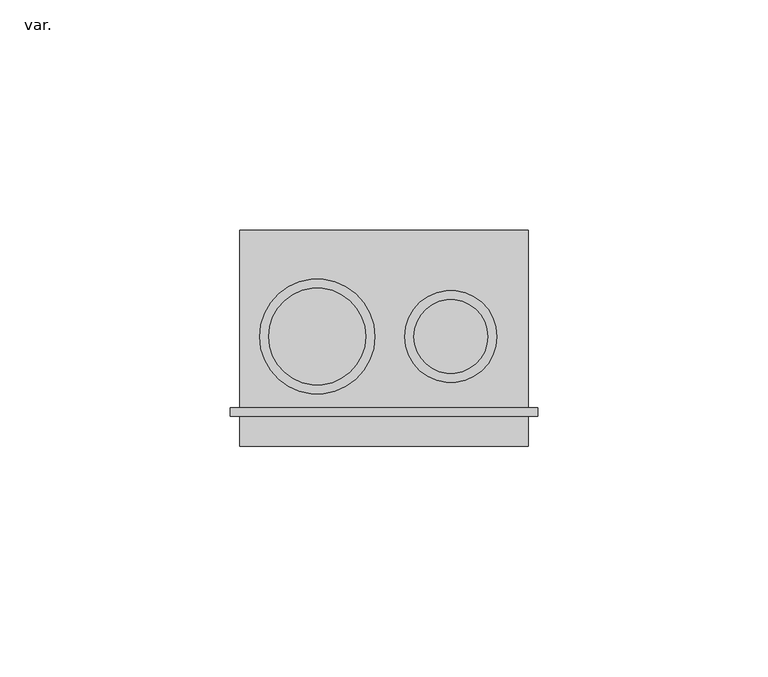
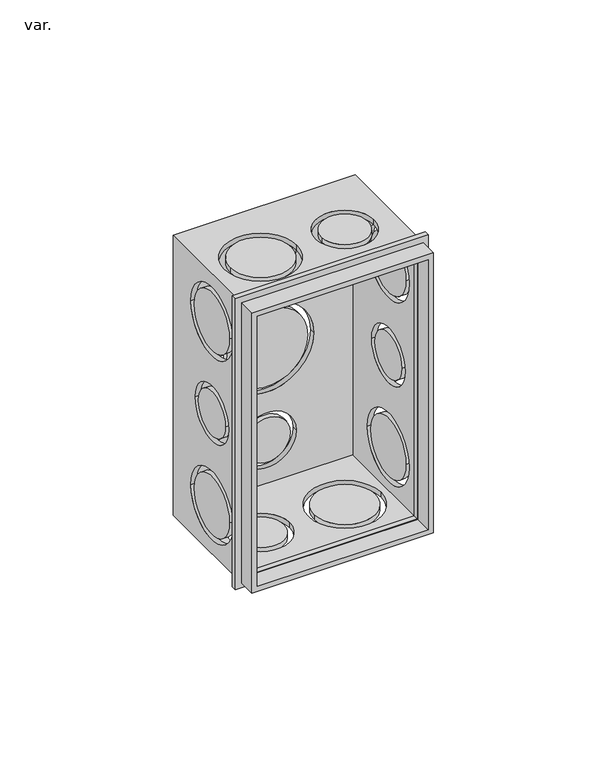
"""IFC4 building model written with IfcOpenShell, lengths in millimetres: pipe fitting geometry, AmancoWavin_ConexõesdoConduite_LinhaEletricaCorrugadoCaixa4x2 : var.."""

from ifc_helpers import new_model, si_unit, frame, origin, place, context, project, spatial, polyline, circle_curve, outline, extrude, source, transform, mapped, element, save
from ifc_brep_helpers import plane_surface, cylinder_surface, revolved_surface, advanced_brep


def var_f98750ab(model_context):
    return source(origin(), model_context, "Body", "SolidModel", [
        extrude(outline(polyline([(53.0, 33.3), (53.0, -33.3), (-53.0, -33.3), (-53.0, 33.3), (53.0, 33.3)]), holes=[polyline([(49.2, 29.5), (-49.2, 29.5), (-49.2, -29.5), (49.2, -29.5), (49.2, 29.5)])]), frame((0.0, 6.5, 0.0), z_axis=(0.0, 1.0, 0.0), x_axis=(0.0, 0.0, 1.0)), (0.0, 0.0, 1.0), 1.8),
        advanced_brep(
        [(31.3, 46.8, 51.0), (31.3, 46.8, -51.0), (-31.3, 46.8, -51.0), (-31.3, 46.8, 51.0), (-16.0, 46.8, 0.0), (16.0, 46.8, 0.0), (-10.0, 46.8, 33.5), (10.0, 46.8, 33.5), (-10.0, 46.8, -33.5), (10.0, 46.8, -33.5), (31.3, 0.0, 51.0), (-31.3, 0.0, 51.0), (-31.3, 0.0, -51.0), (31.3, 0.0, -51.0), (29.5, 0.0, 49.2), (29.5, 0.0, -49.2), (-29.5, 0.0, -49.2), (-29.5, 0.0, 49.2), (31.3, 33.8, 0.0), (31.3, 13.8, 0.0), (31.3, 36.3, 33.5), (31.3, 11.3, 33.5), (31.3, 36.3, -33.5), (31.3, 11.3, -33.5), (2.0, 23.8, -51.0), (27.0, 23.8, -51.0), (-24.5, 23.8, -51.0), (-4.5, 23.8, -51.0), (-31.3, 13.8, 0.0), (-31.3, 33.8, 0.0), (-31.3, 11.3, 33.5), (-31.3, 36.3, 33.5), (-31.3, 11.3, -33.5), (-31.3, 36.3, -33.5), (-2.0, 23.8, 51.0), (-27.0, 23.8, 51.0), (24.5, 23.8, 51.0), (4.5, 23.8, 51.0), (29.5, 45.0, 49.2), (-29.5, 45.0, 49.2), (-29.5, 45.0, -49.2), (29.5, 45.0, -49.2), (16.0, 45.0, 0.0), (-16.0, 45.0, 0.0), (10.0, 45.0, 33.5), (-10.0, 45.0, 33.5), (10.0, 45.0, -33.5), (-10.0, 45.0, -33.5), (29.5, 13.8, 0.0), (29.5, 33.8, 0.0), (29.5, 11.3, 33.5), (29.5, 36.3, 33.5), (29.5, 11.3, -33.5), (29.5, 36.3, -33.5), (27.0, 23.8, -49.2), (2.0, 23.8, -49.2), (-4.5, 23.8, -49.2), (-24.5, 23.8, -49.2), (-29.5, 33.8, 0.0), (-29.5, 13.8, 0.0), (-29.5, 36.3, 33.5), (-29.5, 11.3, 33.5), (-29.5, 36.3, -33.5), (-29.5, 11.3, -33.5), (-27.0, 23.8, 49.2), (-2.0, 23.8, 49.2), (4.5, 23.8, 49.2), (24.5, 23.8, 49.2)],
        [
            (0, 1),
            (1, 2),
            (2, 3),
            (3, 0),
            (4, 5, circle_curve(frame((0.0, 46.8, 0.0), z_axis=(0.0, -1.0, 0.0), x_axis=(-1.0, 0.0, 0.0)), 16.0)),
            (5, 4, circle_curve(frame((0.0, 46.8, 0.0), z_axis=(0.0, -1.0, 0.0), x_axis=(-1.0, 0.0, 0.0)), 16.0)),
            (6, 7, circle_curve(frame((0.0, 46.8, 33.5), z_axis=(0.0, -1.0, 0.0), x_axis=(-1.0, 0.0, 0.0)), 10.0)),
            (7, 6, circle_curve(frame((0.0, 46.8, 33.5), z_axis=(0.0, -1.0, 0.0), x_axis=(-1.0, 0.0, 0.0)), 10.0)),
            (8, 9, circle_curve(frame((0.0, 46.8, -33.5), z_axis=(0.0, -1.0, 0.0), x_axis=(-1.0, 0.0, 0.0)), 10.0)),
            (9, 8, circle_curve(frame((0.0, 46.8, -33.5), z_axis=(0.0, -1.0, 0.0), x_axis=(-1.0, 0.0, 0.0)), 10.0)),
            (10, 11),
            (11, 12),
            (12, 13),
            (13, 10),
            (14, 15),
            (15, 16),
            (16, 17),
            (17, 14),
            (0, 10),
            (13, 1),
            (18, 19, circle_curve(frame((31.3, 23.8, 0.0), z_axis=(-1.0, 0.0, 0.0), x_axis=(0.0, -1.0, 0.0)), 10.0)),
            (19, 18, circle_curve(frame((31.3, 23.8, 0.0), z_axis=(-1.0, 0.0, 0.0), x_axis=(0.0, -1.0, 0.0)), 10.0)),
            (20, 21, circle_curve(frame((31.3, 23.8, 33.5), z_axis=(-1.0, 0.0, 0.0), x_axis=(0.0, -1.0, 0.0)), 12.5)),
            (21, 20, circle_curve(frame((31.3, 23.8, 33.5), z_axis=(-1.0, 0.0, 0.0), x_axis=(0.0, -1.0, 0.0)), 12.5)),
            (22, 23, circle_curve(frame((31.3, 23.8, -33.5), z_axis=(-1.0, 0.0, 0.0), x_axis=(0.0, -1.0, 0.0)), 12.5)),
            (23, 22, circle_curve(frame((31.3, 23.8, -33.5), z_axis=(-1.0, 0.0, 0.0), x_axis=(0.0, -1.0, 0.0)), 12.5)),
            (12, 2),
            (24, 25, circle_curve(frame((14.5, 23.8, -51.0), z_axis=(0.0, 0.0, 1.0), x_axis=(1.0, 0.0, 0.0)), 12.5)),
            (25, 24, circle_curve(frame((14.5, 23.8, -51.0), z_axis=(0.0, 0.0, 1.0), x_axis=(1.0, 0.0, 0.0)), 12.5)),
            (26, 27, circle_curve(frame((-14.5, 23.8, -51.0), z_axis=(0.0, 0.0, 1.0), x_axis=(1.0, 0.0, 0.0)), 10.0)),
            (27, 26, circle_curve(frame((-14.5, 23.8, -51.0), z_axis=(0.0, 0.0, 1.0), x_axis=(1.0, 0.0, 0.0)), 10.0)),
            (11, 3),
            (28, 29, circle_curve(frame((-31.3, 23.8, 0.0), z_axis=(1.0, 0.0, 0.0), x_axis=(0.0, -1.0, 0.0)), 10.0)),
            (29, 28, circle_curve(frame((-31.3, 23.8, 0.0), z_axis=(1.0, 0.0, 0.0), x_axis=(0.0, -1.0, 0.0)), 10.0)),
            (30, 31, circle_curve(frame((-31.3, 23.8, 33.5), z_axis=(1.0, 0.0, 0.0), x_axis=(0.0, -1.0, 0.0)), 12.5)),
            (31, 30, circle_curve(frame((-31.3, 23.8, 33.5), z_axis=(1.0, 0.0, 0.0), x_axis=(0.0, -1.0, 0.0)), 12.5)),
            (32, 33, circle_curve(frame((-31.3, 23.8, -33.5), z_axis=(1.0, 0.0, 0.0), x_axis=(0.0, -1.0, 0.0)), 12.5)),
            (33, 32, circle_curve(frame((-31.3, 23.8, -33.5), z_axis=(1.0, 0.0, 0.0), x_axis=(0.0, -1.0, 0.0)), 12.5)),
            (34, 35, circle_curve(frame((-14.5, 23.8, 51.0), z_axis=(0.0, 0.0, -1.0), x_axis=(1.0, 0.0, 0.0)), 12.5)),
            (35, 34, circle_curve(frame((-14.5, 23.8, 51.0), z_axis=(0.0, 0.0, -1.0), x_axis=(1.0, 0.0, 0.0)), 12.5)),
            (36, 37, circle_curve(frame((14.5, 23.8, 51.0), z_axis=(0.0, 0.0, -1.0), x_axis=(1.0, 0.0, 0.0)), 10.0)),
            (37, 36, circle_curve(frame((14.5, 23.8, 51.0), z_axis=(0.0, 0.0, -1.0), x_axis=(1.0, 0.0, 0.0)), 10.0)),
            (38, 39),
            (39, 40),
            (40, 41),
            (41, 38),
            (42, 43, circle_curve(frame((0.0, 45.0, 0.0), z_axis=(0.0, 1.0, 0.0), x_axis=(-1.0, 0.0, 0.0)), 16.0)),
            (43, 42, circle_curve(frame((0.0, 45.0, 0.0), z_axis=(0.0, 1.0, 0.0), x_axis=(-1.0, 0.0, 0.0)), 16.0)),
            (44, 45, circle_curve(frame((0.0, 45.0, 33.5), z_axis=(0.0, 1.0, 0.0), x_axis=(-1.0, 0.0, 0.0)), 10.0)),
            (45, 44, circle_curve(frame((0.0, 45.0, 33.5), z_axis=(0.0, 1.0, 0.0), x_axis=(-1.0, 0.0, 0.0)), 10.0)),
            (46, 47, circle_curve(frame((0.0, 45.0, -33.5), z_axis=(0.0, 1.0, 0.0), x_axis=(-1.0, 0.0, 0.0)), 10.0)),
            (47, 46, circle_curve(frame((0.0, 45.0, -33.5), z_axis=(0.0, 1.0, 0.0), x_axis=(-1.0, 0.0, 0.0)), 10.0)),
            (41, 15),
            (14, 38),
            (48, 49, circle_curve(frame((29.5, 23.8, 0.0), z_axis=(1.0, 0.0, 0.0), x_axis=(0.0, -1.0, 0.0)), 10.0)),
            (49, 48, circle_curve(frame((29.5, 23.8, 0.0), z_axis=(1.0, 0.0, 0.0), x_axis=(0.0, -1.0, 0.0)), 10.0)),
            (50, 51, circle_curve(frame((29.5, 23.8, 33.5), z_axis=(1.0, 0.0, 0.0), x_axis=(0.0, -1.0, 0.0)), 12.5)),
            (51, 50, circle_curve(frame((29.5, 23.8, 33.5), z_axis=(1.0, 0.0, 0.0), x_axis=(0.0, -1.0, 0.0)), 12.5)),
            (52, 53, circle_curve(frame((29.5, 23.8, -33.5), z_axis=(1.0, 0.0, 0.0), x_axis=(0.0, -1.0, 0.0)), 12.5)),
            (53, 52, circle_curve(frame((29.5, 23.8, -33.5), z_axis=(1.0, 0.0, 0.0), x_axis=(0.0, -1.0, 0.0)), 12.5)),
            (40, 16),
            (54, 55, circle_curve(frame((14.5, 23.8, -49.2), z_axis=(0.0, 0.0, -1.0), x_axis=(1.0, 0.0, 0.0)), 12.5)),
            (55, 54, circle_curve(frame((14.5, 23.8, -49.2), z_axis=(0.0, 0.0, -1.0), x_axis=(1.0, 0.0, 0.0)), 12.5)),
            (56, 57, circle_curve(frame((-14.5, 23.8, -49.2), z_axis=(0.0, 0.0, -1.0), x_axis=(1.0, 0.0, 0.0)), 10.0)),
            (57, 56, circle_curve(frame((-14.5, 23.8, -49.2), z_axis=(0.0, 0.0, -1.0), x_axis=(1.0, 0.0, 0.0)), 10.0)),
            (39, 17),
            (58, 59, circle_curve(frame((-29.5, 23.8, 0.0), z_axis=(-1.0, 0.0, 0.0), x_axis=(0.0, -1.0, 0.0)), 10.0)),
            (59, 58, circle_curve(frame((-29.5, 23.8, 0.0), z_axis=(-1.0, 0.0, 0.0), x_axis=(0.0, -1.0, 0.0)), 10.0)),
            (60, 61, circle_curve(frame((-29.5, 23.8, 33.5), z_axis=(-1.0, 0.0, 0.0), x_axis=(0.0, -1.0, 0.0)), 12.5)),
            (61, 60, circle_curve(frame((-29.5, 23.8, 33.5), z_axis=(-1.0, 0.0, 0.0), x_axis=(0.0, -1.0, 0.0)), 12.5)),
            (62, 63, circle_curve(frame((-29.5, 23.8, -33.5), z_axis=(-1.0, 0.0, 0.0), x_axis=(0.0, -1.0, 0.0)), 12.5)),
            (63, 62, circle_curve(frame((-29.5, 23.8, -33.5), z_axis=(-1.0, 0.0, 0.0), x_axis=(0.0, -1.0, 0.0)), 12.5)),
            (64, 65, circle_curve(frame((-14.5, 23.8, 49.2), z_axis=(0.0, 0.0, 1.0), x_axis=(1.0, 0.0, 0.0)), 12.5)),
            (65, 64, circle_curve(frame((-14.5, 23.8, 49.2), z_axis=(0.0, 0.0, 1.0), x_axis=(1.0, 0.0, 0.0)), 12.5)),
            (66, 67, circle_curve(frame((14.5, 23.8, 49.2), z_axis=(0.0, 0.0, 1.0), x_axis=(1.0, 0.0, 0.0)), 10.0)),
            (67, 66, circle_curve(frame((14.5, 23.8, 49.2), z_axis=(0.0, 0.0, 1.0), x_axis=(1.0, 0.0, 0.0)), 10.0)),
            (4, 43),
            (42, 5),
            (6, 45),
            (44, 7),
            (8, 47),
            (46, 9),
            (34, 65),
            (64, 35),
            (36, 67),
            (66, 37),
            (54, 25),
            (24, 55),
            (56, 27),
            (26, 57),
            (18, 49),
            (48, 19),
            (58, 29),
            (28, 59),
            (20, 51),
            (50, 21),
            (60, 31),
            (30, 61),
            (22, 53),
            (52, 23),
            (62, 33),
            (32, 63),
        ],
        [
            plane_surface(frame((31.3, 46.8, 51.0), z_axis=(0.0, 1.0, 0.0), x_axis=(0.0, 0.0, -1.0))),
            plane_surface(frame((31.3, 0.0, 51.0), z_axis=(0.0, -1.0, 0.0), x_axis=(0.0, 0.0, 1.0))),
            plane_surface(frame((31.3, 46.8, 51.0), z_axis=(1.0, 0.0, 0.0), x_axis=(0.0, -1.0, 0.0))),
            plane_surface(frame((31.3, 46.8, -51.0), z_axis=(0.0, 0.0, -1.0), x_axis=(0.0, -1.0, 0.0))),
            plane_surface(frame((-31.3, 46.8, -51.0), z_axis=(-1.0, 0.0, 0.0), x_axis=(0.0, -1.0, 0.0))),
            plane_surface(frame((-31.3, 46.8, 51.0), z_axis=(0.0, 0.0, 1.0), x_axis=(0.0, -1.0, 0.0))),
            plane_surface(frame((29.5, 45.0, 49.2), z_axis=(0.0, -1.0, 0.0), x_axis=(0.0, 0.0, -1.0))),
            plane_surface(frame((29.5, 45.0, 49.2), z_axis=(-1.0, 0.0, 0.0), x_axis=(0.0, -1.0, 0.0))),
            plane_surface(frame((29.5, 45.0, -49.2), z_axis=(0.0, 0.0, 1.0), x_axis=(0.0, -1.0, 0.0))),
            plane_surface(frame((-29.5, 45.0, -49.2), z_axis=(1.0, 0.0, 0.0), x_axis=(0.0, -1.0, 0.0))),
            plane_surface(frame((-29.5, 45.0, 49.2), z_axis=(0.0, 0.0, -1.0), x_axis=(0.0, -1.0, 0.0))),
            revolved_surface(polyline([(-16.0, 46.8, 0.0), (-16.0, 45.0, 0.0)]), (0.0, 45.0, 0.0), (0.0, 1.0, 0.0)),
            revolved_surface(polyline([(-10.0, 46.8, 33.5), (-10.0, 45.0, 33.5)]), (0.0, 0.0, 33.5), (0.0, 1.0, 0.0)),
            revolved_surface(polyline([(-10.0, 46.8, -33.5), (-10.0, 45.0, -33.5)]), (0.0, 0.0, -33.5), (0.0, 1.0, 0.0)),
            revolved_surface(polyline([(-2.0, 23.8, 51.0), (-2.0, 23.8, 49.2)]), (-14.5, 23.8, 49.2), (0.0, 0.0, 1.0)),
            revolved_surface(polyline([(24.5, 23.8, 51.0), (24.5, 23.8, 49.2)]), (14.5, 23.8, 0.0), (0.0, 0.0, 1.0)),
            revolved_surface(polyline([(27.0, 23.8, -49.2), (27.0, 23.8, -51.0)]), (14.5, 23.8, 0.0), (0.0, 0.0, 1.0)),
            revolved_surface(polyline([(-4.5, 23.8, -49.2), (-4.5, 23.8, -51.0)]), (-14.5, 23.8, 0.0), (0.0, 0.0, 1.0)),
            revolved_surface(polyline([(29.5, 13.8, 0.0), (31.3, 13.8, 0.0)]), (31.3, 23.8, 0.0), (-1.0, 0.0, 0.0)),
            revolved_surface(polyline([(-31.3, 13.8, 0.0), (-29.499999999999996, 13.8, 0.0)]), (31.3, 23.8, 0.0), (-1.0, 0.0, 0.0)),
            revolved_surface(polyline([(29.5, 11.3, 33.5), (31.3, 11.3, 33.5)]), (0.0, 23.8, 33.5), (-1.0, 0.0, 0.0)),
            revolved_surface(polyline([(-31.3, 11.3, 33.5), (-29.5, 11.3, 33.5)]), (0.0, 23.8, 33.5), (-1.0, 0.0, 0.0)),
            revolved_surface(polyline([(29.5, 11.3, -33.5), (31.3, 11.3, -33.5)]), (0.0, 23.8, -33.5), (-1.0, 0.0, 0.0)),
            revolved_surface(polyline([(-31.3, 11.3, -33.5), (-29.5, 11.3, -33.5)]), (0.0, 23.8, -33.5), (-1.0, 0.0, 0.0)),
        ],
        [
            (0, [[1, 2, 3, 4], [5, 6], [7, 8], [9, 10]]),
            (1, [[11, 12, 13, 14], [15, 16, 17, 18]]),
            (2, [[-1, 19, -14, 20], [21, 22], [23, 24], [25, 26]]),
            (3, [[-2, -20, -13, 27], [28, 29], [30, 31]]),
            (4, [[-3, -27, -12, 32], [33, 34], [35, 36], [37, 38]]),
            (5, [[-4, -32, -11, -19], [39, 40], [41, 42]]),
            (6, [[43, 44, 45, 46], [47, 48], [49, 50], [51, 52]]),
            (7, [[-46, 53, -15, 54], [55, 56], [57, 58], [59, 60]]),
            (8, [[-45, 61, -16, -53], [62, 63], [64, 65]]),
            (9, [[-44, 66, -17, -61], [67, 68], [69, 70], [71, 72]]),
            (10, [[-43, -54, -18, -66], [73, 74], [75, 76]]),
            (11, [[77, -47, 78, -5]]),
            (11, [[-77, -6, -78, -48]]),
            (12, [[79, -49, 80, -7]]),
            (12, [[-79, -8, -80, -50]]),
            (13, [[81, -51, 82, -9]]),
            (13, [[-81, -10, -82, -52]]),
            (14, [[83, -73, 84, -39]]),
            (14, [[-83, -40, -84, -74]]),
            (15, [[85, -75, 86, -41]]),
            (15, [[-85, -42, -86, -76]]),
            (16, [[87, -28, 88, -62]]),
            (16, [[-87, -63, -88, -29]]),
            (17, [[89, -30, 90, -64]]),
            (17, [[-89, -65, -90, -31]]),
            (18, [[91, -55, 92, -21]]),
            (19, [[93, -33, 94, -67]]),
            (18, [[-91, -22, -92, -56]]),
            (19, [[-93, -68, -94, -34]]),
            (20, [[95, -57, 96, -23]]),
            (21, [[97, -35, 98, -69]]),
            (20, [[-95, -24, -96, -58]]),
            (21, [[-97, -70, -98, -36]]),
            (22, [[99, -59, 100, -25]]),
            (23, [[101, -37, 102, -71]]),
            (22, [[-99, -26, -100, -60]]),
            (23, [[-101, -72, -102, -38]]),
        ],
    ),
        advanced_brep(
        [(-8.0, 46.8, 33.5), (8.0, 46.8, 33.5), (8.0, 45.0, 33.5), (-8.0, 45.0, 33.5)],
        [
            (0, 1, circle_curve(frame((0.0, 46.8, 33.5), z_axis=(0.0, 1.0, 0.0), x_axis=(-1.0, 0.0, 0.0)), 8.0)),
            (1, 0, circle_curve(frame((0.0, 46.8, 33.5), z_axis=(0.0, 1.0, 0.0), x_axis=(-1.0, 0.0, 0.0)), 8.0)),
            (2, 3, circle_curve(frame((0.0, 45.0, 33.5), z_axis=(0.0, -1.0, 0.0), x_axis=(-1.0, 0.0, 0.0)), 8.0)),
            (3, 2, circle_curve(frame((0.0, 45.0, 33.5), z_axis=(0.0, -1.0, 0.0), x_axis=(-1.0, 0.0, 0.0)), 8.0)),
            (0, 3),
            (2, 1),
        ],
        [
            plane_surface(frame((31.3, 46.8, 51.0), z_axis=(0.0, 1.0, 0.0), x_axis=(0.0, 0.0, -1.0))),
            plane_surface(frame((29.5, 45.0, 49.2), z_axis=(0.0, -1.0, 0.0), x_axis=(0.0, 0.0, -1.0))),
            cylinder_surface(frame((0.0, 0.0, 33.5), z_axis=(0.0, -1.0, 0.0), x_axis=(-1.0, 0.0, 0.0)), 8.0),
        ],
        [
            (0, [[1, 2]]),
            (1, [[3, 4]]),
            (2, [[5, -3, 6, -1]]),
            (2, [[-5, -2, -6, -4]]),
        ],
    ),
        advanced_brep(
        [(-14.0, 46.8, 0.0), (14.0, 46.8, 0.0), (14.0, 45.0, 0.0), (-14.0, 45.0, 0.0)],
        [
            (0, 1, circle_curve(frame((0.0, 46.8, 0.0), z_axis=(0.0, 1.0, 0.0), x_axis=(-1.0, 0.0, 0.0)), 14.0)),
            (1, 0, circle_curve(frame((0.0, 46.8, 0.0), z_axis=(0.0, 1.0, 0.0), x_axis=(-1.0, 0.0, 0.0)), 14.0)),
            (2, 3, circle_curve(frame((0.0, 45.0, 0.0), z_axis=(0.0, -1.0, 0.0), x_axis=(-1.0, 0.0, 0.0)), 14.0)),
            (3, 2, circle_curve(frame((0.0, 45.0, 0.0), z_axis=(0.0, -1.0, 0.0), x_axis=(-1.0, 0.0, 0.0)), 14.0)),
            (0, 3),
            (2, 1),
        ],
        [
            plane_surface(frame((31.3, 46.8, 51.0), z_axis=(0.0, 1.0, 0.0), x_axis=(0.0, 0.0, -1.0))),
            plane_surface(frame((29.5, 45.0, 49.2), z_axis=(0.0, -1.0, 0.0), x_axis=(0.0, 0.0, -1.0))),
            cylinder_surface(frame((0.0, 0.0, 0.0), z_axis=(0.0, -1.0, 0.0), x_axis=(-1.0, 0.0, 0.0)), 14.0),
        ],
        [
            (0, [[1, 2]]),
            (1, [[3, 4]]),
            (2, [[5, -3, 6, -1]]),
            (2, [[-5, -2, -6, -4]]),
        ],
    ),
        advanced_brep(
        [(-8.0, 46.8, -33.5), (8.0, 46.8, -33.5), (8.0, 45.0, -33.5), (-8.0, 45.0, -33.5)],
        [
            (0, 1, circle_curve(frame((0.0, 46.8, -33.5), z_axis=(0.0, 1.0, 0.0), x_axis=(-1.0, 0.0, 0.0)), 8.0)),
            (1, 0, circle_curve(frame((0.0, 46.8, -33.5), z_axis=(0.0, 1.0, 0.0), x_axis=(-1.0, 0.0, 0.0)), 8.0)),
            (2, 3, circle_curve(frame((0.0, 45.0, -33.5), z_axis=(0.0, -1.0, 0.0), x_axis=(-1.0, 0.0, 0.0)), 8.0)),
            (3, 2, circle_curve(frame((0.0, 45.0, -33.5), z_axis=(0.0, -1.0, 0.0), x_axis=(-1.0, 0.0, 0.0)), 8.0)),
            (0, 3),
            (2, 1),
        ],
        [
            plane_surface(frame((31.3, 46.8, 51.0), z_axis=(0.0, 1.0, 0.0), x_axis=(0.0, 0.0, -1.0))),
            plane_surface(frame((29.5, 45.0, 49.2), z_axis=(0.0, -1.0, 0.0), x_axis=(0.0, 0.0, -1.0))),
            cylinder_surface(frame((0.0, 0.0, -33.5), z_axis=(0.0, -1.0, 0.0), x_axis=(-1.0, 0.0, 0.0)), 8.0),
        ],
        [
            (0, [[1, 2]]),
            (1, [[3, 4]]),
            (2, [[5, -3, 6, -1]]),
            (2, [[-5, -2, -6, -4]]),
        ],
    ),
        advanced_brep(
        [(31.3, 34.3, 33.5), (31.3, 13.3, 33.5), (29.5, 13.3, 33.5), (29.5, 34.3, 33.5)],
        [
            (0, 1, circle_curve(frame((31.3, 23.8, 33.5), z_axis=(1.0, 0.0, 0.0), x_axis=(0.0, -1.0, 0.0)), 10.5)),
            (1, 0, circle_curve(frame((31.3, 23.8, 33.5), z_axis=(1.0, 0.0, 0.0), x_axis=(0.0, -1.0, 0.0)), 10.5)),
            (2, 3, circle_curve(frame((29.5, 23.8, 33.5), z_axis=(-1.0, 0.0, 0.0), x_axis=(0.0, -1.0, 0.0)), 10.5)),
            (3, 2, circle_curve(frame((29.5, 23.8, 33.5), z_axis=(-1.0, 0.0, 0.0), x_axis=(0.0, -1.0, 0.0)), 10.5)),
            (0, 3),
            (2, 1),
        ],
        [
            plane_surface(frame((31.3, 46.8, 51.0), z_axis=(1.0, 0.0, 0.0), x_axis=(0.0, -1.0, 0.0))),
            plane_surface(frame((29.5, 45.0, 49.2), z_axis=(-1.0, 0.0, 0.0), x_axis=(0.0, -1.0, 0.0))),
            cylinder_surface(frame((0.0, 23.8, 33.5), z_axis=(1.0, 0.0, 0.0), x_axis=(0.0, -1.0, 0.0)), 10.5),
        ],
        [
            (0, [[1, 2]]),
            (1, [[3, 4]]),
            (2, [[5, -3, 6, -1]]),
            (2, [[-5, -2, -6, -4]]),
        ],
    ),
        advanced_brep(
        [(31.3, 34.3, -33.5), (31.3, 13.3, -33.5), (29.5, 13.3, -33.5), (29.5, 34.3, -33.5)],
        [
            (0, 1, circle_curve(frame((31.3, 23.8, -33.5), z_axis=(1.0, 0.0, 0.0), x_axis=(0.0, -1.0, 0.0)), 10.5)),
            (1, 0, circle_curve(frame((31.3, 23.8, -33.5), z_axis=(1.0, 0.0, 0.0), x_axis=(0.0, -1.0, 0.0)), 10.5)),
            (2, 3, circle_curve(frame((29.5, 23.8, -33.5), z_axis=(-1.0, 0.0, 0.0), x_axis=(0.0, -1.0, 0.0)), 10.5)),
            (3, 2, circle_curve(frame((29.5, 23.8, -33.5), z_axis=(-1.0, 0.0, 0.0), x_axis=(0.0, -1.0, 0.0)), 10.5)),
            (0, 3),
            (2, 1),
        ],
        [
            plane_surface(frame((31.3, 46.8, 51.0), z_axis=(1.0, 0.0, 0.0), x_axis=(0.0, -1.0, 0.0))),
            plane_surface(frame((29.5, 45.0, 49.2), z_axis=(-1.0, 0.0, 0.0), x_axis=(0.0, -1.0, 0.0))),
            cylinder_surface(frame((0.0, 23.8, -33.5), z_axis=(1.0, 0.0, 0.0), x_axis=(0.0, -1.0, 0.0)), 10.5),
        ],
        [
            (0, [[1, 2]]),
            (1, [[3, 4]]),
            (2, [[5, -3, 6, -1]]),
            (2, [[-5, -2, -6, -4]]),
        ],
    ),
        advanced_brep(
        [(31.3, 31.8, 0.0), (31.3, 15.8, 0.0), (29.5, 15.8, 0.0), (29.5, 31.8, 0.0)],
        [
            (0, 1, circle_curve(frame((31.3, 23.8, 0.0), z_axis=(1.0, 0.0, 0.0), x_axis=(0.0, -1.0, 0.0)), 8.0)),
            (1, 0, circle_curve(frame((31.3, 23.8, 0.0), z_axis=(1.0, 0.0, 0.0), x_axis=(0.0, -1.0, 0.0)), 8.0)),
            (2, 3, circle_curve(frame((29.5, 23.8, 0.0), z_axis=(-1.0, 0.0, 0.0), x_axis=(0.0, -1.0, 0.0)), 8.0)),
            (3, 2, circle_curve(frame((29.5, 23.8, 0.0), z_axis=(-1.0, 0.0, 0.0), x_axis=(0.0, -1.0, 0.0)), 8.0)),
            (0, 3),
            (2, 1),
        ],
        [
            plane_surface(frame((31.3, 46.8, 51.0), z_axis=(1.0, 0.0, 0.0), x_axis=(0.0, -1.0, 0.0))),
            plane_surface(frame((29.5, 45.0, 49.2), z_axis=(-1.0, 0.0, 0.0), x_axis=(0.0, -1.0, 0.0))),
            cylinder_surface(frame((0.0, 23.8, 0.0), z_axis=(1.0, 0.0, 0.0), x_axis=(0.0, -1.0, 0.0)), 8.0),
        ],
        [
            (0, [[1, 2]]),
            (1, [[3, 4]]),
            (2, [[5, -3, 6, -1]]),
            (2, [[-5, -2, -6, -4]]),
        ],
    ),
        advanced_brep(
        [(-22.5, 23.8, -51.0), (-6.5, 23.8, -51.0), (-6.5, 23.8, -49.2), (-22.5, 23.8, -49.2)],
        [
            (0, 1, circle_curve(frame((-14.5, 23.8, -51.0), z_axis=(0.0, 0.0, -1.0), x_axis=(1.0, 0.0, 0.0)), 8.0)),
            (1, 0, circle_curve(frame((-14.5, 23.8, -51.0), z_axis=(0.0, 0.0, -1.0), x_axis=(1.0, 0.0, 0.0)), 8.0)),
            (2, 3, circle_curve(frame((-14.5, 23.8, -49.2), z_axis=(0.0, 0.0, 1.0), x_axis=(1.0, 0.0, 0.0)), 8.0)),
            (3, 2, circle_curve(frame((-14.5, 23.8, -49.2), z_axis=(0.0, 0.0, 1.0), x_axis=(1.0, 0.0, 0.0)), 8.0)),
            (2, 1),
            (0, 3),
        ],
        [
            plane_surface(frame((31.3, 46.8, -51.0), z_axis=(0.0, 0.0, -1.0), x_axis=(0.0, -1.0, 0.0))),
            plane_surface(frame((29.5, 45.0, -49.2), z_axis=(0.0, 0.0, 1.0), x_axis=(0.0, -1.0, 0.0))),
            cylinder_surface(frame((-14.5, 23.8, -51.0), z_axis=(0.0, 0.0, -1.0), x_axis=(1.0, 0.0, 0.0)), 8.0),
        ],
        [
            (0, [[1, 2]]),
            (1, [[3, 4]]),
            (2, [[5, -1, 6, -3]]),
            (2, [[-5, -4, -6, -2]]),
        ],
    ),
        advanced_brep(
        [(4.0, 23.8, -51.0), (25.0, 23.8, -51.0), (25.0, 23.8, -49.2), (4.0, 23.8, -49.2)],
        [
            (0, 1, circle_curve(frame((14.5, 23.8, -51.0), z_axis=(0.0, 0.0, -1.0), x_axis=(1.0, 0.0, 0.0)), 10.5)),
            (1, 0, circle_curve(frame((14.5, 23.8, -51.0), z_axis=(0.0, 0.0, -1.0), x_axis=(1.0, 0.0, 0.0)), 10.5)),
            (2, 3, circle_curve(frame((14.5, 23.8, -49.2), z_axis=(0.0, 0.0, 1.0), x_axis=(1.0, 0.0, 0.0)), 10.5)),
            (3, 2, circle_curve(frame((14.5, 23.8, -49.2), z_axis=(0.0, 0.0, 1.0), x_axis=(1.0, 0.0, 0.0)), 10.5)),
            (2, 1),
            (0, 3),
        ],
        [
            plane_surface(frame((31.3, 46.8, -51.0), z_axis=(0.0, 0.0, -1.0), x_axis=(0.0, -1.0, 0.0))),
            plane_surface(frame((29.5, 45.0, -49.2), z_axis=(0.0, 0.0, 1.0), x_axis=(0.0, -1.0, 0.0))),
            cylinder_surface(frame((14.5, 23.8, 0.0), z_axis=(0.0, 0.0, -1.0), x_axis=(1.0, 0.0, 0.0)), 10.5),
        ],
        [
            (0, [[1, 2]]),
            (1, [[3, 4]]),
            (2, [[5, -1, 6, -3]]),
            (2, [[-5, -4, -6, -2]]),
        ],
    ),
        advanced_brep(
        [(-31.3, 13.3, 33.5), (-31.3, 34.3, 33.5), (-29.5, 34.3, 33.5), (-29.5, 13.3, 33.5)],
        [
            (0, 1, circle_curve(frame((-31.3, 23.8, 33.5), z_axis=(-1.0, 0.0, 0.0), x_axis=(0.0, -1.0, 0.0)), 10.5)),
            (1, 0, circle_curve(frame((-31.3, 23.8, 33.5), z_axis=(-1.0, 0.0, 0.0), x_axis=(0.0, -1.0, 0.0)), 10.5)),
            (2, 3, circle_curve(frame((-29.5, 23.8, 33.5), z_axis=(1.0, 0.0, 0.0), x_axis=(0.0, -1.0, 0.0)), 10.5)),
            (3, 2, circle_curve(frame((-29.5, 23.8, 33.5), z_axis=(1.0, 0.0, 0.0), x_axis=(0.0, -1.0, 0.0)), 10.5)),
            (2, 1),
            (0, 3),
        ],
        [
            plane_surface(frame((-31.3, 46.8, -51.0), z_axis=(-1.0, 0.0, 0.0), x_axis=(0.0, -1.0, 0.0))),
            plane_surface(frame((-29.5, 45.0, -49.2), z_axis=(1.0, 0.0, 0.0), x_axis=(0.0, -1.0, 0.0))),
            cylinder_surface(frame((0.0, 23.8, 33.5), z_axis=(1.0, 0.0, 0.0), x_axis=(0.0, -1.0, 0.0)), 10.5),
        ],
        [
            (0, [[1, 2]]),
            (1, [[3, 4]]),
            (2, [[5, -1, 6, -3]]),
            (2, [[-5, -4, -6, -2]]),
        ],
    ),
        advanced_brep(
        [(-31.3, 13.3, -33.5), (-31.3, 34.3, -33.5), (-29.5, 34.3, -33.5), (-29.5, 13.3, -33.5)],
        [
            (0, 1, circle_curve(frame((-31.3, 23.8, -33.5), z_axis=(-1.0, 0.0, 0.0), x_axis=(0.0, -1.0, 0.0)), 10.5)),
            (1, 0, circle_curve(frame((-31.3, 23.8, -33.5), z_axis=(-1.0, 0.0, 0.0), x_axis=(0.0, -1.0, 0.0)), 10.5)),
            (2, 3, circle_curve(frame((-29.5, 23.8, -33.5), z_axis=(1.0, 0.0, 0.0), x_axis=(0.0, -1.0, 0.0)), 10.5)),
            (3, 2, circle_curve(frame((-29.5, 23.8, -33.5), z_axis=(1.0, 0.0, 0.0), x_axis=(0.0, -1.0, 0.0)), 10.5)),
            (2, 1),
            (0, 3),
        ],
        [
            plane_surface(frame((-31.3, 46.8, -51.0), z_axis=(-1.0, 0.0, 0.0), x_axis=(0.0, -1.0, 0.0))),
            plane_surface(frame((-29.5, 45.0, -49.2), z_axis=(1.0, 0.0, 0.0), x_axis=(0.0, -1.0, 0.0))),
            cylinder_surface(frame((0.0, 23.8, -33.5), z_axis=(1.0, 0.0, 0.0), x_axis=(0.0, -1.0, 0.0)), 10.5),
        ],
        [
            (0, [[1, 2]]),
            (1, [[3, 4]]),
            (2, [[5, -1, 6, -3]]),
            (2, [[-5, -4, -6, -2]]),
        ],
    ),
        advanced_brep(
        [(-31.3, 15.8, 0.0), (-31.3, 31.8, 0.0), (-29.5, 31.8, 0.0), (-29.5, 15.8, 0.0)],
        [
            (0, 1, circle_curve(frame((-31.3, 23.8, 0.0), z_axis=(-1.0, 0.0, 0.0), x_axis=(0.0, -1.0, 0.0)), 8.0)),
            (1, 0, circle_curve(frame((-31.3, 23.8, 0.0), z_axis=(-1.0, 0.0, 0.0), x_axis=(0.0, -1.0, 0.0)), 8.0)),
            (2, 3, circle_curve(frame((-29.5, 23.8, 0.0), z_axis=(1.0, 0.0, 0.0), x_axis=(0.0, -1.0, 0.0)), 8.0)),
            (3, 2, circle_curve(frame((-29.5, 23.8, 0.0), z_axis=(1.0, 0.0, 0.0), x_axis=(0.0, -1.0, 0.0)), 8.0)),
            (2, 1),
            (0, 3),
        ],
        [
            plane_surface(frame((-31.3, 46.8, -51.0), z_axis=(-1.0, 0.0, 0.0), x_axis=(0.0, -1.0, 0.0))),
            plane_surface(frame((-29.5, 45.0, -49.2), z_axis=(1.0, 0.0, 0.0), x_axis=(0.0, -1.0, 0.0))),
            cylinder_surface(frame((0.0, 23.8, 0.0), z_axis=(1.0, 0.0, 0.0), x_axis=(0.0, -1.0, 0.0)), 8.0),
        ],
        [
            (0, [[1, 2]]),
            (1, [[3, 4]]),
            (2, [[5, -1, 6, -3]]),
            (2, [[-5, -4, -6, -2]]),
        ],
    ),
        advanced_brep(
        [(-4.0, 23.8, 51.0), (-25.0, 23.8, 51.0), (-25.0, 23.8, 49.2), (-4.0, 23.8, 49.2)],
        [
            (0, 1, circle_curve(frame((-14.5, 23.8, 51.0), z_axis=(0.0, 0.0, 1.0), x_axis=(1.0, 0.0, 0.0)), 10.5)),
            (1, 0, circle_curve(frame((-14.5, 23.8, 51.0), z_axis=(0.0, 0.0, 1.0), x_axis=(1.0, 0.0, 0.0)), 10.5)),
            (2, 3, circle_curve(frame((-14.5, 23.8, 49.2), z_axis=(0.0, 0.0, -1.0), x_axis=(1.0, 0.0, 0.0)), 10.5)),
            (3, 2, circle_curve(frame((-14.5, 23.8, 49.2), z_axis=(0.0, 0.0, -1.0), x_axis=(1.0, 0.0, 0.0)), 10.5)),
            (0, 3),
            (2, 1),
        ],
        [
            plane_surface(frame((-31.3, 46.8, 51.0), z_axis=(0.0, 0.0, 1.0), x_axis=(0.0, -1.0, 0.0))),
            plane_surface(frame((-29.5, 45.0, 49.2), z_axis=(0.0, 0.0, -1.0), x_axis=(0.0, -1.0, 0.0))),
            cylinder_surface(frame((-14.5, 23.8, 0.0), z_axis=(0.0, 0.0, -1.0), x_axis=(1.0, 0.0, 0.0)), 10.5),
        ],
        [
            (0, [[1, 2]]),
            (1, [[3, 4]]),
            (2, [[5, -3, 6, -1]]),
            (2, [[-5, -2, -6, -4]]),
        ],
    ),
        advanced_brep(
        [(22.5, 23.8, 51.0), (6.5, 23.8, 51.0), (6.5, 23.8, 49.2), (22.5, 23.8, 49.2)],
        [
            (0, 1, circle_curve(frame((14.5, 23.8, 51.0), z_axis=(0.0, 0.0, 1.0), x_axis=(1.0, 0.0, 0.0)), 8.0)),
            (1, 0, circle_curve(frame((14.5, 23.8, 51.0), z_axis=(0.0, 0.0, 1.0), x_axis=(1.0, 0.0, 0.0)), 8.0)),
            (2, 3, circle_curve(frame((14.5, 23.8, 49.2), z_axis=(0.0, 0.0, -1.0), x_axis=(1.0, 0.0, 0.0)), 8.0)),
            (3, 2, circle_curve(frame((14.5, 23.8, 49.2), z_axis=(0.0, 0.0, -1.0), x_axis=(1.0, 0.0, 0.0)), 8.0)),
            (0, 3),
            (2, 1),
        ],
        [
            plane_surface(frame((-31.3, 46.8, 51.0), z_axis=(0.0, 0.0, 1.0), x_axis=(0.0, -1.0, 0.0))),
            plane_surface(frame((-29.5, 45.0, 49.2), z_axis=(0.0, 0.0, -1.0), x_axis=(0.0, -1.0, 0.0))),
            cylinder_surface(frame((14.5, 23.8, 0.0), z_axis=(0.0, 0.0, -1.0), x_axis=(1.0, 0.0, 0.0)), 8.0),
        ],
        [
            (0, [[1, 2]]),
            (1, [[3, 4]]),
            (2, [[5, -3, 6, -1]]),
            (2, [[-5, -2, -6, -4]]),
        ],
    ),
    ])


if __name__ == "__main__":
    model = new_model("IFC4")
    model_context = context("Model", 3, world=origin())
    ifc_project = project(units=[si_unit("LENGTHUNIT", "METRE", prefix="MILLI")], contexts=[model_context])
    site = spatial("IfcSite", under=ifc_project)
    building = spatial("IfcBuilding", under=site)
    placement = place(None, origin())
    var_shape = var_f98750ab(model_context)
    element("IfcPipeFitting", 1, ObjectType="AmancoWavin_ConexõesdoConduite_LinhaEletricaCorrugadoCaixa4x2 : var.", at=placement, inside=building, context=model_context, shape_type="MappedRepresentation", body=[
        mapped(var_shape, transform((0.0, 0.0, 0.0), x_axis=(1.0, 0.0, 0.0), y_axis=(0.0, 1.0, 0.0), z_axis=(0.0, 0.0, 1.0))),
    ])
    save(model, "model.ifc")
